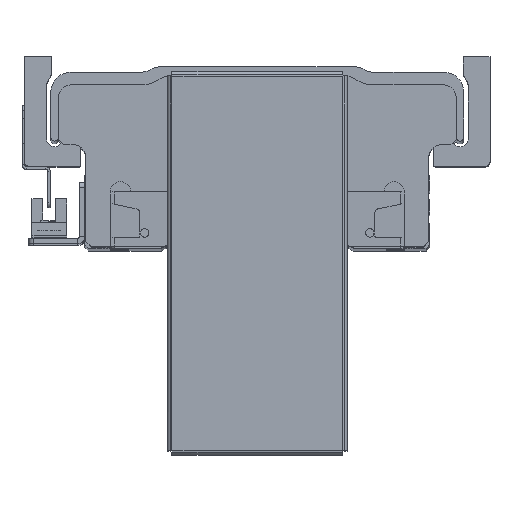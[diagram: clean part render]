
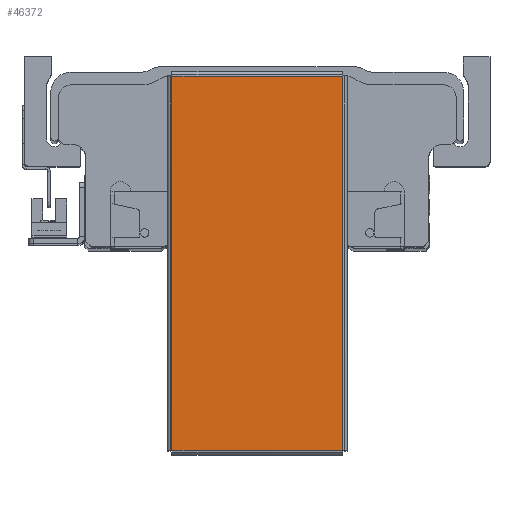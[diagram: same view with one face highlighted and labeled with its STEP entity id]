
A CAD part, top view. The second image highlights one B-rep face of the part: STEP entity #46372.
In plain terms, the highlighted planar face has unit normal (0, 0, 1) as drawn and (0, -1, 0) by its records, which use the part's own axes.
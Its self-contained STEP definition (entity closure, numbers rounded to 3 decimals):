
#2110 = VERTEX_POINT ( 'NONE', #16737 ) ;
#2117 = VERTEX_POINT ( 'NONE', #16749 ) ;
#2119 = VERTEX_POINT ( 'NONE', #16739 ) ;
#2124 = VERTEX_POINT ( 'NONE', #16700 ) ;
#2494 = ORIENTED_EDGE ( 'NONE', *, *, #32735, .T. ) ;
#2502 = ORIENTED_EDGE ( 'NONE', *, *, #32723, .T. ) ;
#2510 = ORIENTED_EDGE ( 'NONE', *, *, #32710, .T. ) ;
#2588 = ORIENTED_EDGE ( 'NONE', *, *, #32688, .T. ) ;
#14009 = EDGE_LOOP ( 'NONE', ( #2510, #2494, #2502, #2588 ) ) ;
#16700 = CARTESIAN_POINT ( 'NONE',  ( 73.263, -1., 33.363 ) ) ;
#16737 = CARTESIAN_POINT ( 'NONE',  ( -73.263, -1., -33.363 ) ) ;
#16739 = CARTESIAN_POINT ( 'NONE',  ( -73.263, -1., 33.363 ) ) ;
#16749 = CARTESIAN_POINT ( 'NONE',  ( 73.263, -1., -33.363 ) ) ;
#19661 = VECTOR ( 'NONE', #50399, 1000. ) ;
#19677 = VECTOR ( 'NONE', #50364, 1000. ) ;
#19700 = LINE ( 'NONE', #50360, #19677 ) ;
#19716 = LINE ( 'NONE', #50340, #19719 ) ;
#19719 = VECTOR ( 'NONE', #50325, 1000. ) ;
#19722 = LINE ( 'NONE', #50407, #19661 ) ;
#19724 = LINE ( 'NONE', #50468, #19780 ) ;
#19780 = VECTOR ( 'NONE', #50462, 1000. ) ;
#32688 = EDGE_CURVE ( 'NONE', #2117, #2124, #19716, .T. ) ;
#32710 = EDGE_CURVE ( 'NONE', #2124, #2119, #19700, .T. ) ;
#32723 = EDGE_CURVE ( 'NONE', #2110, #2117, #19722, .T. ) ;
#32735 = EDGE_CURVE ( 'NONE', #2119, #2110, #19724, .T. ) ;
#39124 = FACE_OUTER_BOUND ( 'NONE', #14009, .T. ) ;
#41068 = CARTESIAN_POINT ( 'NONE',  ( 0., -1., 0. ) ) ;
#41070 = PLANE ( 'NONE',  #49151 ) ;
#41081 = DIRECTION ( 'NONE',  ( 0., 1., 0. ) ) ;
#41090 = DIRECTION ( 'NONE',  ( 0., 0., 1. ) ) ;
#46372 = ADVANCED_FACE ( 'NONE', ( #39124 ), #41070, .F. ) ;
#49151 = AXIS2_PLACEMENT_3D ( 'NONE', #41068, #41081, #41090 ) ;
#50325 = DIRECTION ( 'NONE',  ( 0., 0., 1. ) ) ;
#50340 = CARTESIAN_POINT ( 'NONE',  ( 73.263, -1., -33.393 ) ) ;
#50360 = CARTESIAN_POINT ( 'NONE',  ( 73.293, -1., 33.363 ) ) ;
#50364 = DIRECTION ( 'NONE',  ( -1., 0., 0. ) ) ;
#50399 = DIRECTION ( 'NONE',  ( 1., 0., 0. ) ) ;
#50407 = CARTESIAN_POINT ( 'NONE',  ( -73.293, -1., -33.363 ) ) ;
#50462 = DIRECTION ( 'NONE',  ( 0., 0., -1. ) ) ;
#50468 = CARTESIAN_POINT ( 'NONE',  ( -73.263, -1., 33.393 ) ) ;
